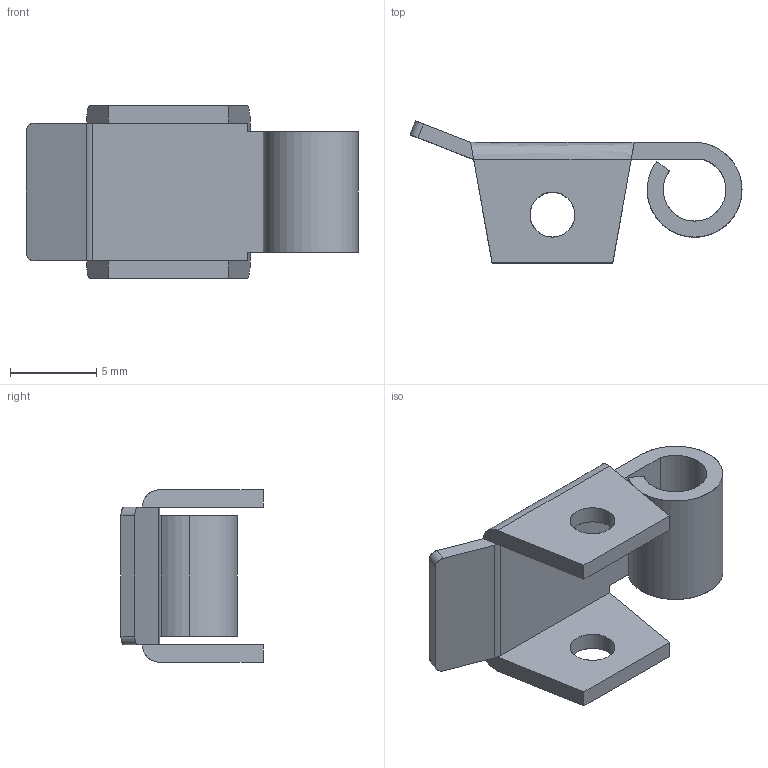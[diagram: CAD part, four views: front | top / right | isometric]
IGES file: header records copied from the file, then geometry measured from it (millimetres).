
Start section: SolidWorks IGES FILE using analytic representation for surfaces
Global section: file name: C:\WINNT\Profiles\cbrechard\Bureau\GE 573\532.010.00.IGS; native system: SolidWorks 2001Plus by SolidWorks Corporation; preprocessor: Version 5.3; author: CBRECHARD; date: 050125.144626; units: millimetre
Bounding box: 19.27 x 8.25 x 10 mm (x, y, z)
Surface area: 740 mm2 (no closed solid volume)
Topology: 0 solids, 0 shells, 35 faces, 446 edges, 446 vertices
Faces by surface type: bspline 20, revolution 15
